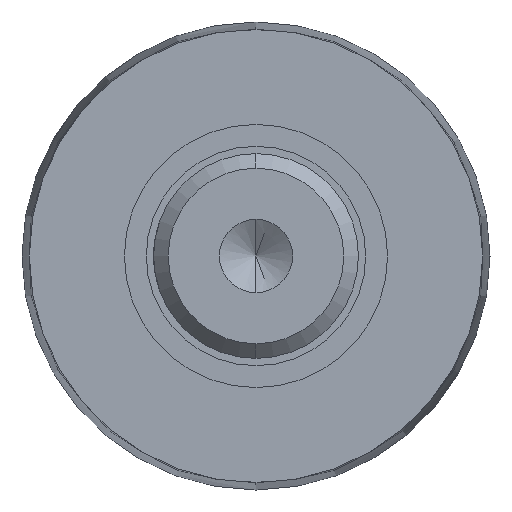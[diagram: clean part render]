
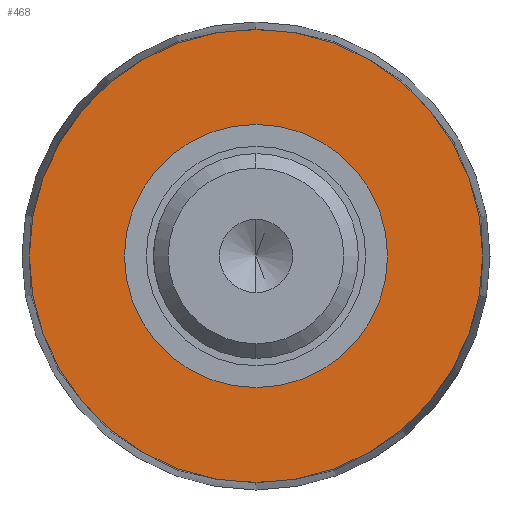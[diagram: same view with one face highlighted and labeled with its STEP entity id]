
A CAD part, left-side view. The second image highlights one B-rep face of the part: STEP entity #468.
In plain terms, the highlighted planar face has unit normal (-1, 0, 0).
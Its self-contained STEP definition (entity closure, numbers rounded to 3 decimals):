
#28 = CARTESIAN_POINT ( 'NONE',  ( 98.5, 16., 0. ) ) ;
#36 = ORIENTED_EDGE ( 'NONE', *, *, #381, .T. ) ;
#47 = AXIS2_PLACEMENT_3D ( 'NONE', #348, #456, #223 ) ;
#106 = DIRECTION ( 'NONE',  ( 1., 0., 0. ) ) ;
#118 = CIRCLE ( 'NONE', #168, 15.5 ) ;
#168 = AXIS2_PLACEMENT_3D ( 'NONE', #420, #922, #711 ) ;
#174 = ORIENTED_EDGE ( 'NONE', *, *, #992, .T. ) ;
#223 = DIRECTION ( 'NONE',  ( 0., 0., 1. ) ) ;
#271 = AXIS2_PLACEMENT_3D ( 'NONE', #687, #290, #683 ) ;
#290 = DIRECTION ( 'NONE',  ( 1., 0., 0. ) ) ;
#348 = CARTESIAN_POINT ( 'NONE',  ( 98.5, 0., 0. ) ) ;
#381 = EDGE_CURVE ( 'NONE', #415, #1223, #641, .T. ) ;
#387 = PLANE ( 'NONE',  #508 ) ;
#399 = FACE_BOUND ( 'NONE', #530, .T. ) ;
#415 = VERTEX_POINT ( 'NONE', #1128 ) ;
#420 = CARTESIAN_POINT ( 'NONE',  ( 98.5, 0., 0. ) ) ;
#428 = VERTEX_POINT ( 'NONE', #597 ) ;
#456 = DIRECTION ( 'NONE',  ( -1., 0., 0. ) ) ;
#468 = ADVANCED_FACE ( 'NONE', ( #399, #892 ), #387, .T. ) ;
#508 = AXIS2_PLACEMENT_3D ( 'NONE', #28, #689, #1126 ) ;
#530 = EDGE_LOOP ( 'NONE', ( #595, #36 ) ) ;
#534 = EDGE_CURVE ( 'NONE', #984, #428, #691, .T. ) ;
#555 = CARTESIAN_POINT ( 'NONE',  ( 98.5, 0., -9. ) ) ;
#578 = AXIS2_PLACEMENT_3D ( 'NONE', #686, #106, #1230 ) ;
#588 = CIRCLE ( 'NONE', #578, 9. ) ;
#595 = ORIENTED_EDGE ( 'NONE', *, *, #851, .T. ) ;
#597 = CARTESIAN_POINT ( 'NONE',  ( 98.5, 0., -15.5 ) ) ;
#641 = CIRCLE ( 'NONE', #271, 9. ) ;
#683 = DIRECTION ( 'NONE',  ( 0., 0., -1. ) ) ;
#686 = CARTESIAN_POINT ( 'NONE',  ( 98.5, 0., 0. ) ) ;
#687 = CARTESIAN_POINT ( 'NONE',  ( 98.5, 0., 0. ) ) ;
#689 = DIRECTION ( 'NONE',  ( -1., 0., 0. ) ) ;
#691 = CIRCLE ( 'NONE', #47, 15.5 ) ;
#711 = DIRECTION ( 'NONE',  ( 0., 0., 1. ) ) ;
#825 = CARTESIAN_POINT ( 'NONE',  ( 98.5, 0., 15.5 ) ) ;
#851 = EDGE_CURVE ( 'NONE', #1223, #415, #588, .T. ) ;
#892 = FACE_OUTER_BOUND ( 'NONE', #1084, .T. ) ;
#922 = DIRECTION ( 'NONE',  ( -1., 0., 0. ) ) ;
#939 = ORIENTED_EDGE ( 'NONE', *, *, #534, .T. ) ;
#984 = VERTEX_POINT ( 'NONE', #825 ) ;
#992 = EDGE_CURVE ( 'NONE', #428, #984, #118, .T. ) ;
#1084 = EDGE_LOOP ( 'NONE', ( #174, #939 ) ) ;
#1126 = DIRECTION ( 'NONE',  ( 0., 0., 1. ) ) ;
#1128 = CARTESIAN_POINT ( 'NONE',  ( 98.5, 0., 9. ) ) ;
#1223 = VERTEX_POINT ( 'NONE', #555 ) ;
#1230 = DIRECTION ( 'NONE',  ( 0., 0., -1. ) ) ;
